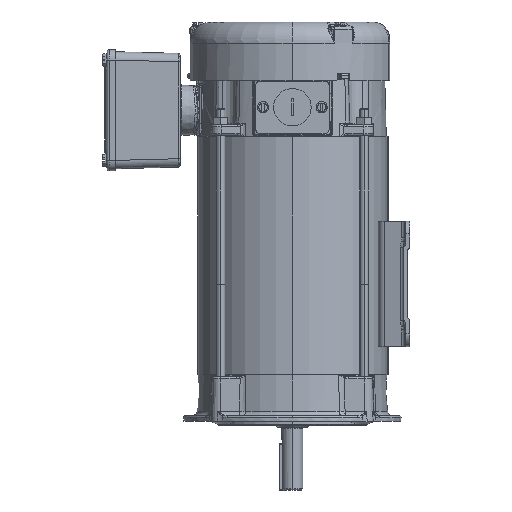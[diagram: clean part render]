
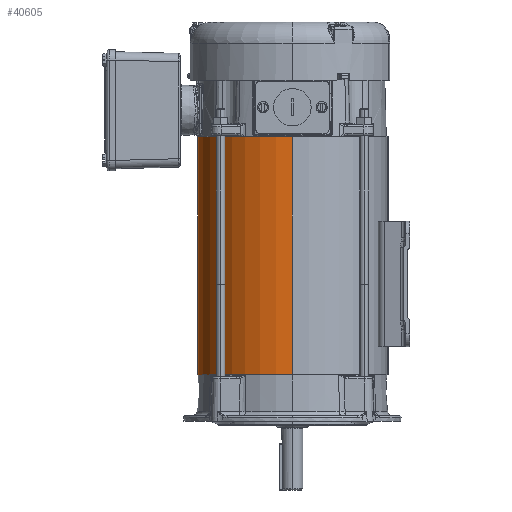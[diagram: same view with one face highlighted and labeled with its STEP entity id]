
A CAD part, left-side view. The second image highlights one B-rep face of the part: STEP entity #40605.
In plain terms, the highlighted cylindrical face has radius 71.857 mm (diameter 143.713 mm), a partial arc.
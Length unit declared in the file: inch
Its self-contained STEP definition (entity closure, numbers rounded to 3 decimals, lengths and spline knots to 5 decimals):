
#4685 = AXIS2_PLACEMENT_3D ( 'NONE', #59466, #91410, #21553 ) ;
#5321 = CARTESIAN_POINT ( 'NONE',  ( 0., 0., 3.43545 ) ) ;
#11347 = CIRCLE ( 'NONE', #4685, 2.829 ) ;
#21553 = DIRECTION ( 'NONE',  ( 1., 0., 0. ) ) ;
#22243 = CARTESIAN_POINT ( 'NONE',  ( -2.829, 0., 3.44545 ) ) ;
#22550 = CARTESIAN_POINT ( 'NONE',  ( -2.829, 0., 10.55045 ) ) ;
#27398 = EDGE_CURVE ( 'NONE', #33170, #92413, #124127, .T. ) ;
#29069 = FACE_OUTER_BOUND ( 'NONE', #117053, .T. ) ;
#32148 = EDGE_CURVE ( 'NONE', #33170, #37790, #11347, .T. ) ;
#33170 = VERTEX_POINT ( 'NONE', #78289 ) ;
#33598 = DIRECTION ( 'NONE',  ( 0., 0., 1. ) ) ;
#34060 = DIRECTION ( 'NONE',  ( 0., 0., -1. ) ) ;
#37790 = VERTEX_POINT ( 'NONE', #22243 ) ;
#40605 = ADVANCED_FACE ( 'NONE', ( #29069 ), #118432, .T. ) ;
#55791 = DIRECTION ( 'NONE',  ( 0., 0., 1. ) ) ;
#58310 = ORIENTED_EDGE ( 'NONE', *, *, #27398, .F. ) ;
#59466 = CARTESIAN_POINT ( 'NONE',  ( 0., 0., 3.44545 ) ) ;
#60196 = ORIENTED_EDGE ( 'NONE', *, *, #118494, .T. ) ;
#64772 = VECTOR ( 'NONE', #55791, 39.37008 ) ;
#66675 = ORIENTED_EDGE ( 'NONE', *, *, #98912, .T. ) ;
#72328 = DIRECTION ( 'NONE',  ( 1., 0., 0. ) ) ;
#78289 = CARTESIAN_POINT ( 'NONE',  ( 2.829, 0., 3.44545 ) ) ;
#79727 = CARTESIAN_POINT ( 'NONE',  ( 2.829, 0., 3.43545 ) ) ;
#84812 = ORIENTED_EDGE ( 'NONE', *, *, #32148, .T. ) ;
#88091 = CARTESIAN_POINT ( 'NONE',  ( 2.829, 0., 10.55045 ) ) ;
#89505 = CARTESIAN_POINT ( 'NONE',  ( -2.829, 0., 3.43545 ) ) ;
#91410 = DIRECTION ( 'NONE',  ( 0., 0., 1. ) ) ;
#92413 = VERTEX_POINT ( 'NONE', #88091 ) ;
#98912 = EDGE_CURVE ( 'NONE', #129741, #92413, #132263, .T. ) ;
#101222 = CARTESIAN_POINT ( 'NONE',  ( 0., 0., 10.55045 ) ) ;
#101474 = AXIS2_PLACEMENT_3D ( 'NONE', #101222, #34060, #112489 ) ;
#106716 = VECTOR ( 'NONE', #33598, 39.37008 ) ;
#112489 = DIRECTION ( 'NONE',  ( 1., 0., 0. ) ) ;
#117053 = EDGE_LOOP ( 'NONE', ( #84812, #60196, #66675, #58310 ) ) ;
#118432 = CYLINDRICAL_SURFACE ( 'NONE', #142547, 2.829 ) ;
#118494 = EDGE_CURVE ( 'NONE', #37790, #129741, #122179, .T. ) ;
#122179 = LINE ( 'NONE', #89505, #106716 ) ;
#124127 = LINE ( 'NONE', #79727, #64772 ) ;
#129741 = VERTEX_POINT ( 'NONE', #22550 ) ;
#132263 = CIRCLE ( 'NONE', #101474, 2.829 ) ;
#139240 = DIRECTION ( 'NONE',  ( 0., 0., 1. ) ) ;
#142547 = AXIS2_PLACEMENT_3D ( 'NONE', #5321, #139240, #72328 ) ;
